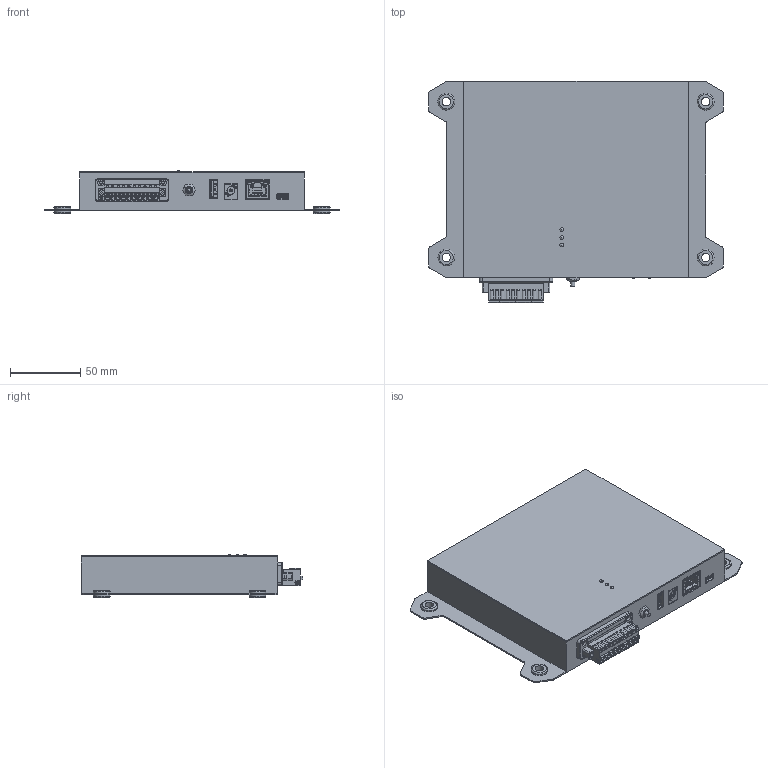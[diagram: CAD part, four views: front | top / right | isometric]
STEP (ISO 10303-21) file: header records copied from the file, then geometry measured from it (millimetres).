
FILE_DESCRIPTION(/* description */ ('Unknown'),/* implementation_level */ '2;1');
FILE_NAME(/* name */ 'WR4321PXAAAA',/* time_stamp */ '2021-08-31T12:13:03+02:00',/* author */ ('Unknown'),/* organization */ ('Unknown'),/* preprocessor_version */ 'ST-DEVELOPER v16.7',/* originating_system */ 'Solid Edge',/* authorisation */ 'Unknown');
FILE_SCHEMA (('CONFIG_CONTROL_DESIGN'));
Products named in the file (24): WR4321PXAAAA; Base_rev1 ; Coperchio_rev1; KLDX-0202-A-LT_rA2; Dado; Porta_RF4; Porta_RF40; Porta_RF3; Porta_RF30; Porta_RF2; Porta_RF20; Porta_RF1; Porta_RF10; DAAA009AAAAA003; DAAA009AAAAA004; USB_A_894858000_; DAAA009AAAAA005; fk-mcp_1.5-10-stf-3.083; dfk-mc_1.5-10-gf-3.083; 39-352; USBmini; eth; eth1; DKN 6-9-12-1
Assembly tree (26 placements, depth 3):
  WR4321PXAAAA
    Base_rev1 
    Coperchio_rev1
    KLDX-0202-A-LT_rA2
    Dado
    Porta_RF4
      Porta_RF40
    Porta_RF3
      Porta_RF30
    Porta_RF2
      Porta_RF20
    Porta_RF1
      Porta_RF10
    DAAA009AAAAA003
    DAAA009AAAAA004
    USB_A_894858000_
    DAAA009AAAAA005
    fk-mcp_1.5-10-stf-3.083
    dfk-mc_1.5-10-gf-3.083
    39-352
    USBmini
    eth
    eth1
    DKN 6-9-12-1  x4
Bounding box: 210 x 157.7 x 30.8 mm (x, y, z)
Volume: 79837.7 mm3; surface area: 150348.7 mm2
Topology: 18 solids, 20 shells, 3801 faces, 10367 edges, 6640 vertices
Faces by surface type: plane 2587, cylinder 1033, cone 52, torus 49, sphere 46, bspline 34
Full cylindrical faces by diameter (mm): 0.457 x2, 1.4 x1, 1.6 x19, 1.75 x2, 1.9 x3, 2.057 x1, 2.1 x1, 2.3 x7, 2.5 x7, 2.794 x2, 2.896 x1, 3.1 x10, 3.8 x2, 3.9 x2, 4.064 x4, 4.318 x1, 4.4 x1, 4.496 x1, 4.5 x2, 5.664 x1, 5.7 x1, 5.969 x1, 6 x4, 6.096 x1, 6.35 x1, 6.985 x1, 8.2 x4, 9 x4, 12 x8
Entity records: 140121 total; most frequent: CARTESIAN_POINT 25572, ORIENTED_EDGE 20156, DIRECTION 19619, EDGE_CURVE 10078, LINE 7627, VECTOR 7627, VERTEX_POINT 6548, AXIS2_PLACEMENT_3D 5996
